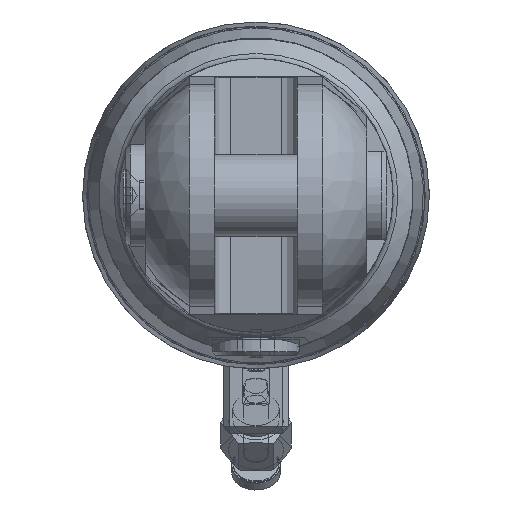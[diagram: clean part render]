
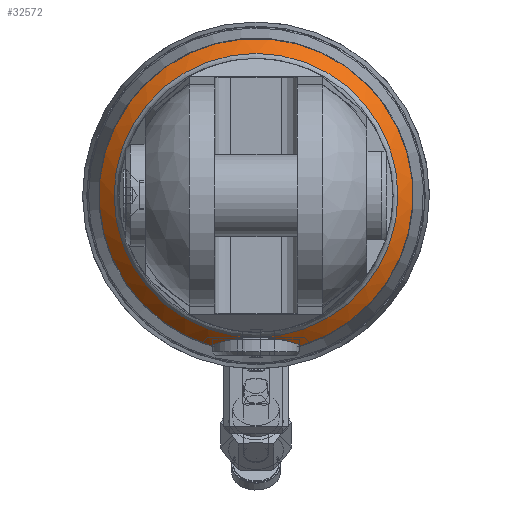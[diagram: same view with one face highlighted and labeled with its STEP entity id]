
A CAD part, left-side view. The second image highlights one B-rep face of the part: STEP entity #32572.
In plain terms, the highlighted conical face has half-angle 45.661 degrees and reference radius 46.189 mm.
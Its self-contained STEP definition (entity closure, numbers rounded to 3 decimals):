
#1785=B_SPLINE_CURVE_WITH_KNOTS('',3,(#59221,#59222,#59223,#59224,#59225,
#59226,#59227,#59228,#59229,#59230,#59231,#59232),.UNSPECIFIED.,.F.,.F.,
(4,2,2,2,2,4),(2.416,2.501,2.844,3.187,
3.529,3.872),.UNSPECIFIED.);
#1788=B_SPLINE_CURVE_WITH_KNOTS('',3,(#59276,#59277,#59278,#59279,#59280,
#59281,#59282,#59283,#59284,#59285,#59286,#59287),.UNSPECIFIED.,.F.,.F.,
(4,2,2,2,2,4),(3.872,4.215,4.558,4.901,
5.244,5.329),.UNSPECIFIED.);
#2282=CIRCLE('',#33871,48.5);
#2283=CIRCLE('',#33873,43.878);
#2284=CIRCLE('',#33874,43.878);
#2504=CONICAL_SURFACE('',#33872,46.189,0.797);
#4002=FACE_OUTER_BOUND('',#5832,.T.);
#5832=EDGE_LOOP('',(#27304,#27305,#27306,#27307,#27308));
#14534=VERTEX_POINT('',#59208);
#14538=VERTEX_POINT('',#59220);
#14540=VERTEX_POINT('',#59255);
#14545=VERTEX_POINT('',#59344);
#18850=EDGE_CURVE('',#14538,#14534,#1785,.T.);
#18853=EDGE_CURVE('',#14534,#14540,#1788,.T.);
#18859=EDGE_CURVE('',#14538,#14540,#2282,.T.);
#18861=EDGE_CURVE('',#14534,#14545,#2283,.T.);
#18862=EDGE_CURVE('',#14545,#14534,#2284,.T.);
#27304=ORIENTED_EDGE('',*,*,#18853,.T.);
#27305=ORIENTED_EDGE('',*,*,#18859,.F.);
#27306=ORIENTED_EDGE('',*,*,#18850,.T.);
#27307=ORIENTED_EDGE('',*,*,#18861,.T.);
#27308=ORIENTED_EDGE('',*,*,#18862,.T.);
#32572=ADVANCED_FACE('',(#4002),#2504,.T.);
#33871=AXIS2_PLACEMENT_3D('',#59327,#39025,#39026);
#33872=AXIS2_PLACEMENT_3D('',#59343,#39027,#39028);
#33873=AXIS2_PLACEMENT_3D('',#59345,#39029,#39030);
#33874=AXIS2_PLACEMENT_3D('',#59346,#39031,#39032);
#39025=DIRECTION('center_axis',(1.,0.,0.));
#39026=DIRECTION('ref_axis',(0.,0.,
1.));
#39027=DIRECTION('center_axis',(1.,0.,0.));
#39028=DIRECTION('ref_axis',(0.,0.,
1.));
#39029=DIRECTION('center_axis',(1.,0.,0.));
#39030=DIRECTION('ref_axis',(0.,0.,
1.));
#39031=DIRECTION('center_axis',(1.,0.,0.));
#39032=DIRECTION('ref_axis',(0.,0.,
1.));
#59208=CARTESIAN_POINT('',(-2963.44,0.,-43.878));
#59220=CARTESIAN_POINT('',(-2958.924,14.06,-46.417));
#59221=CARTESIAN_POINT('Ctrl Pts',(-2958.924,14.06,-46.417));
#59222=CARTESIAN_POINT('Ctrl Pts',(-2959.073,13.836,-46.326));
#59223=CARTESIAN_POINT('Ctrl Pts',(-2959.219,13.609,-46.237));
#59224=CARTESIAN_POINT('Ctrl Pts',(-2959.94,12.459,-45.802));
#59225=CARTESIAN_POINT('Ctrl Pts',(-2960.502,11.456,-45.474));
#59226=CARTESIAN_POINT('Ctrl Pts',(-2961.515,9.329,-44.9));
#59227=CARTESIAN_POINT('Ctrl Pts',(-2961.966,8.204,-44.653));
#59228=CARTESIAN_POINT('Ctrl Pts',(-2962.699,5.892,-44.26));
#59229=CARTESIAN_POINT('Ctrl Pts',(-2962.981,4.703,-44.114));
#59230=CARTESIAN_POINT('Ctrl Pts',(-2963.352,2.328,-43.923));
#59231=CARTESIAN_POINT('Ctrl Pts',(-2963.44,1.143,-43.878));
#59232=CARTESIAN_POINT('Ctrl Pts',(-2963.44,0.,
-43.878));
#59255=CARTESIAN_POINT('',(-2958.924,-14.06,-46.417));
#59276=CARTESIAN_POINT('Ctrl Pts',(-2963.44,0.,
-43.878));
#59277=CARTESIAN_POINT('Ctrl Pts',(-2963.44,-1.143,-43.878));
#59278=CARTESIAN_POINT('Ctrl Pts',(-2963.352,-2.328,
-43.923));
#59279=CARTESIAN_POINT('Ctrl Pts',(-2962.981,-4.703,-44.114));
#59280=CARTESIAN_POINT('Ctrl Pts',(-2962.699,-5.892,-44.26));
#59281=CARTESIAN_POINT('Ctrl Pts',(-2961.966,-8.204,
-44.653));
#59282=CARTESIAN_POINT('Ctrl Pts',(-2961.515,-9.329,
-44.9));
#59283=CARTESIAN_POINT('Ctrl Pts',(-2960.502,-11.456,
-45.474));
#59284=CARTESIAN_POINT('Ctrl Pts',(-2959.94,-12.459,
-45.802));
#59285=CARTESIAN_POINT('Ctrl Pts',(-2959.219,-13.609,
-46.237));
#59286=CARTESIAN_POINT('Ctrl Pts',(-2959.073,-13.836,
-46.326));
#59287=CARTESIAN_POINT('Ctrl Pts',(-2958.924,-14.06,-46.417));
#59327=CARTESIAN_POINT('Origin',(-2958.924,0.,0.));
#59343=CARTESIAN_POINT('Origin',(-2961.182,0.,
0.));
#59344=CARTESIAN_POINT('',(-2963.44,43.878,0.));
#59345=CARTESIAN_POINT('Origin',(-2963.44,0.,
0.));
#59346=CARTESIAN_POINT('Origin',(-2963.44,0.,
0.));
